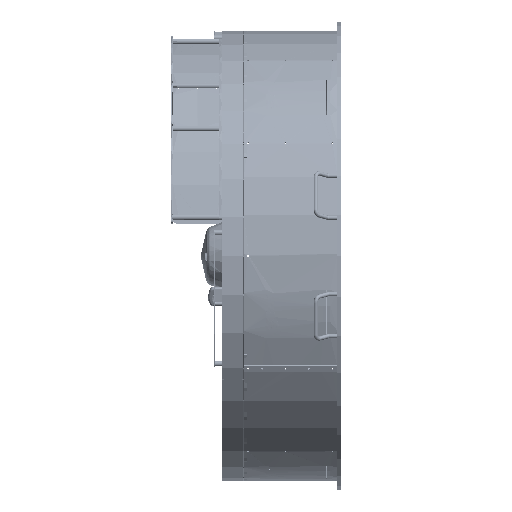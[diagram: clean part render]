
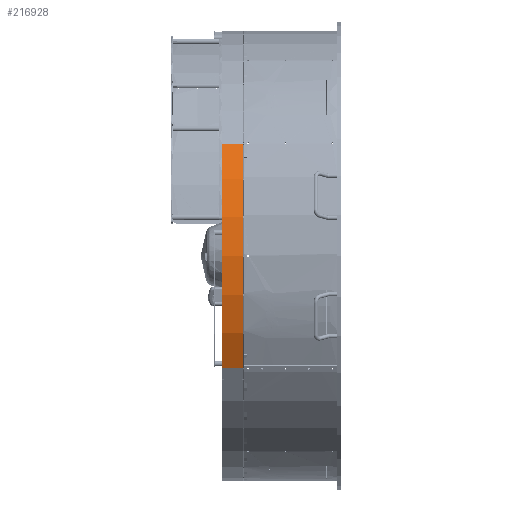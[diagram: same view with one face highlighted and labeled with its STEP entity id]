
A CAD part, left-side view. The second image highlights one B-rep face of the part: STEP entity #216928.
In plain terms, the highlighted cylindrical face has radius 620 mm (diameter 1240 mm), a partial arc.
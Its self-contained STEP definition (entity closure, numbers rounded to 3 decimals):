
#334 = DIRECTION ( 'NONE',  ( -1., 0., 0. ) ) ;
#903 = VERTEX_POINT ( 'NONE', #193981 ) ;
#11788 = LINE ( 'NONE', #88069, #67830 ) ;
#22501 = CARTESIAN_POINT ( 'NONE',  ( 620., 0., 59. ) ) ;
#25478 = AXIS2_PLACEMENT_3D ( 'NONE', #181730, #334402, #334 ) ;
#45099 = CARTESIAN_POINT ( 'NONE',  ( 0., 0., 1. ) ) ;
#45551 = CYLINDRICAL_SURFACE ( 'NONE', #25478, 620. ) ;
#50258 = CARTESIAN_POINT ( 'NONE',  ( 620., 0., 1. ) ) ;
#61668 = DIRECTION ( 'NONE',  ( 0., 0., -1. ) ) ;
#63292 = CIRCLE ( 'NONE', #375700, 620. ) ;
#67830 = VECTOR ( 'NONE', #197837, 1000. ) ;
#79029 = FACE_OUTER_BOUND ( 'NONE', #436576, .T. ) ;
#88069 = CARTESIAN_POINT ( 'NONE',  ( 620., 0., 60. ) ) ;
#90629 = VERTEX_POINT ( 'NONE', #50258 ) ;
#96564 = AXIS2_PLACEMENT_3D ( 'NONE', #45099, #255229, #372074 ) ;
#100008 = EDGE_CURVE ( 'NONE', #903, #239268, #253919, .T. ) ;
#157107 = VECTOR ( 'NONE', #399522, 1000. ) ;
#158336 = ORIENTED_EDGE ( 'NONE', *, *, #100008, .T. ) ;
#160280 = EDGE_CURVE ( 'NONE', #339060, #90629, #11788, .T. ) ;
#181730 = CARTESIAN_POINT ( 'NONE',  ( 0., 0., 60. ) ) ;
#193981 = CARTESIAN_POINT ( 'NONE',  ( 310., -536.936, 59. ) ) ;
#197837 = DIRECTION ( 'NONE',  ( 0., 0., -1. ) ) ;
#205728 = ORIENTED_EDGE ( 'NONE', *, *, #160280, .F. ) ;
#216181 = EDGE_CURVE ( 'NONE', #339060, #903, #63292, .T. ) ;
#216928 = ADVANCED_FACE ( 'NONE', ( #79029 ), #45551, .T. ) ;
#217645 = CARTESIAN_POINT ( 'NONE',  ( 310., -536.936, 1. ) ) ;
#239268 = VERTEX_POINT ( 'NONE', #217645 ) ;
#245409 = DIRECTION ( 'NONE',  ( 1., 0., 0. ) ) ;
#253919 = LINE ( 'NONE', #464103, #157107 ) ;
#255229 = DIRECTION ( 'NONE',  ( 0., 0., 1. ) ) ;
#262205 = EDGE_CURVE ( 'NONE', #239268, #90629, #393692, .T. ) ;
#263060 = ORIENTED_EDGE ( 'NONE', *, *, #216181, .T. ) ;
#334402 = DIRECTION ( 'NONE',  ( 0., 0., -1. ) ) ;
#339060 = VERTEX_POINT ( 'NONE', #22501 ) ;
#372074 = DIRECTION ( 'NONE',  ( 1., 0., 0. ) ) ;
#375700 = AXIS2_PLACEMENT_3D ( 'NONE', #462641, #61668, #245409 ) ;
#393692 = CIRCLE ( 'NONE', #96564, 620. ) ;
#399522 = DIRECTION ( 'NONE',  ( 0., 0., -1. ) ) ;
#403109 = ORIENTED_EDGE ( 'NONE', *, *, #262205, .T. ) ;
#436576 = EDGE_LOOP ( 'NONE', ( #205728, #263060, #158336, #403109 ) ) ;
#462641 = CARTESIAN_POINT ( 'NONE',  ( 0., 0., 59. ) ) ;
#464103 = CARTESIAN_POINT ( 'NONE',  ( 310., -536.936, 60. ) ) ;
